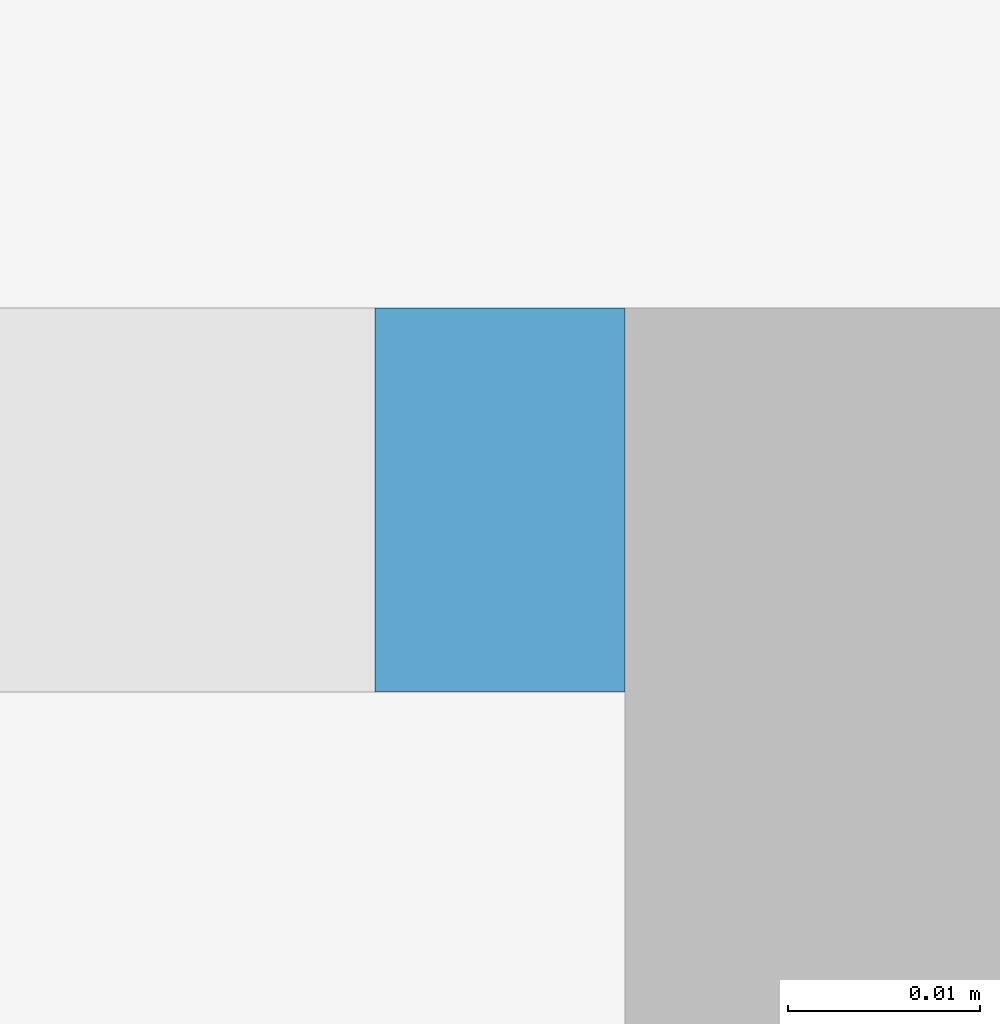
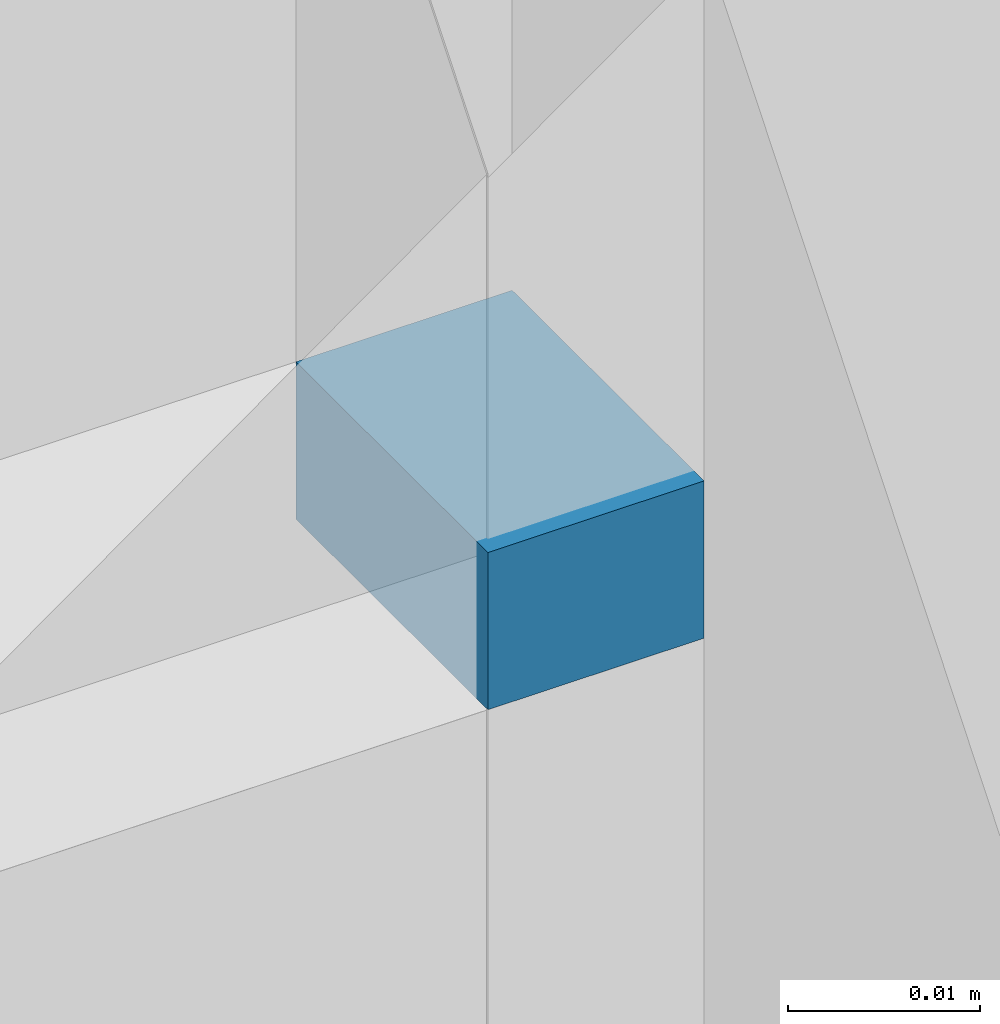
# One storey, part 40 of 66: 1 plate, 1 element without a shape of its own.
"""IFC2X3 building model written with IfcOpenShell, lengths in millimetres."""

from ifc_helpers import new_model, entity, si_unit, converted_unit, derived_unit, direction, frame, origin, origin_2d_with_axis, place, context, subcontext, project, spatial, rectangle, extrude, source, transform, mapped, material, layer, layer_set, layer_usage, type_object, type_shapes, element, aggregate, save


model = new_model("IFC2X3")

# Units and contexts
model_context = context("Model", 3, precision=0.01, world=origin(), true_north=direction((6.12303176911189e-17, 1.0)))
body_context = subcontext(model_context, "Body", "Model", "MODEL_VIEW")
ifc_project = project(units=[si_unit("LENGTHUNIT", "METRE", prefix="MILLI"), si_unit("AREAUNIT", "SQUARE_METRE"), si_unit("VOLUMEUNIT", "CUBIC_METRE"), converted_unit("PLANEANGLEUNIT", "DEGREE", entity("IfcRatioMeasure", 0.0174532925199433), si_unit("PLANEANGLEUNIT", "RADIAN"), dimensions=[0, 0, 0, 0, 0, 0, 0]), si_unit("MASSUNIT", "GRAM", prefix="KILO"), derived_unit("MASSDENSITYUNIT", [(si_unit("MASSUNIT", "GRAM", prefix="KILO"), 1), (si_unit("LENGTHUNIT", "METRE"), -3)]), si_unit("TIMEUNIT", "SECOND"), si_unit("FREQUENCYUNIT", "HERTZ"), si_unit("THERMODYNAMICTEMPERATUREUNIT", "DEGREE_CELSIUS"), derived_unit("THERMALTRANSMITTANCEUNIT", [(si_unit("MASSUNIT", "GRAM", prefix="KILO"), 1), (si_unit("THERMODYNAMICTEMPERATUREUNIT", "KELVIN"), -1), (si_unit("TIMEUNIT", "SECOND"), -3)]), derived_unit("VOLUMETRICFLOWRATEUNIT", [(si_unit("LENGTHUNIT", "METRE"), 3), (si_unit("TIMEUNIT", "SECOND"), -1)]), si_unit("ELECTRICCURRENTUNIT", "AMPERE"), si_unit("ELECTRICVOLTAGEUNIT", "VOLT"), si_unit("POWERUNIT", "WATT"), si_unit("FORCEUNIT", "NEWTON", prefix="KILO"), si_unit("ILLUMINANCEUNIT", "LUX"), si_unit("LUMINOUSFLUXUNIT", "LUMEN"), si_unit("LUMINOUSINTENSITYUNIT", "CANDELA"), derived_unit("USERDEFINED", [(si_unit("MASSUNIT", "GRAM", prefix="KILO"), -1), (si_unit("LENGTHUNIT", "METRE"), -2), (si_unit("TIMEUNIT", "SECOND"), 3), (si_unit("LUMINOUSFLUXUNIT", "LUMEN"), 1)]), derived_unit("LINEARVELOCITYUNIT", [(si_unit("LENGTHUNIT", "METRE"), 1), (si_unit("TIMEUNIT", "SECOND"), -1)]), si_unit("PRESSUREUNIT", "PASCAL"), derived_unit("USERDEFINED", [(si_unit("LENGTHUNIT", "METRE"), -2), (si_unit("MASSUNIT", "GRAM", prefix="KILO"), 1), (si_unit("TIMEUNIT", "SECOND"), -2)])], contexts=[model_context])

# Site, building, storey
site_placement = place(None, frame((-151.875543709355, 2715.0, 0.0)))
site = spatial("IfcSite", under=ifc_project, at=site_placement, Name="Surface", CompositionType="ELEMENT")
building_placement = place(site_placement, origin())
building = spatial("IfcBuilding", under=site, at=building_placement, CompositionType="ELEMENT")
storey_placement = place(building_placement, frame((0.0, 0.0, 3350.0)))
storey = spatial("IfcBuildingStorey", under=building, at=storey_placement, Name="2 korrus", CompositionType="ELEMENT", Elevation=3350.00000000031)

# Curtain wall, plate
curtain_wall_type = type_object("IfcCurtainWallType", Name="Curtain Wall:Klaassein KLS-10", PredefinedType="NOTDEFINED")
curtain_wall_placement = place(storey_placement, frame((0.0, 0.0, -3350.0)))
curtain_wall = element("IfcCurtainWall", 1, at=curtain_wall_placement, inside=storey, type_object=curtain_wall_type, Name="Curtain Wall:Klaassein KLS-10", ObjectType="Curtain Wall:Klaassein KLS-10")
ifc_material = material(Name="<Unnamed>")
ifc_layer = layer(ifc_material, 20.0)
ifc_layer_set = layer_set([ifc_layer], Name="Curtain Wall:Klaassein KLS-01")
ifc_layer_usage = layer_usage(ifc_layer_set, "AXIS3", "POSITIVE", 0.0)
plate_type = type_object("IfcPlateType", Name="Glazed", PredefinedType="CURTAIN_PANEL", material=ifc_layer_set)
shared_shape = source(origin(), body_context, "Body", "SweptSolid", [
    extrude(rectangle(XDim=20.0, YDim=13.0094386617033, at=origin_2d_with_axis()), frame((0.0, 0.0, 0.0), z_axis=(0.0, 0.0, 1.0), x_axis=(0.0, 1.0, 0.0)), (0.0, 0.0, 1.0), 9.99999999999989),
])
type_shapes(plate_type, [shared_shape])
plate_placement = place(curtain_wall_placement, frame((6959.31975413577, 8850.0, 5440.0), z_axis=(0.0, 0.0, 1.0), x_axis=(-1.0, 0.0, 0.0)))
plate = element("IfcPlate", 2, at=plate_placement, type_object=plate_type, material=ifc_layer_usage, Name="System Panel:Glazed", ObjectType="Glazed", context=body_context, shape_type="MappedRepresentation", body=[
    mapped(shared_shape, transform((0.0, 0.0, 0.0), scale=1.0)),
])
aggregate(curtain_wall, [plate])

save(model, "model.ifc")
